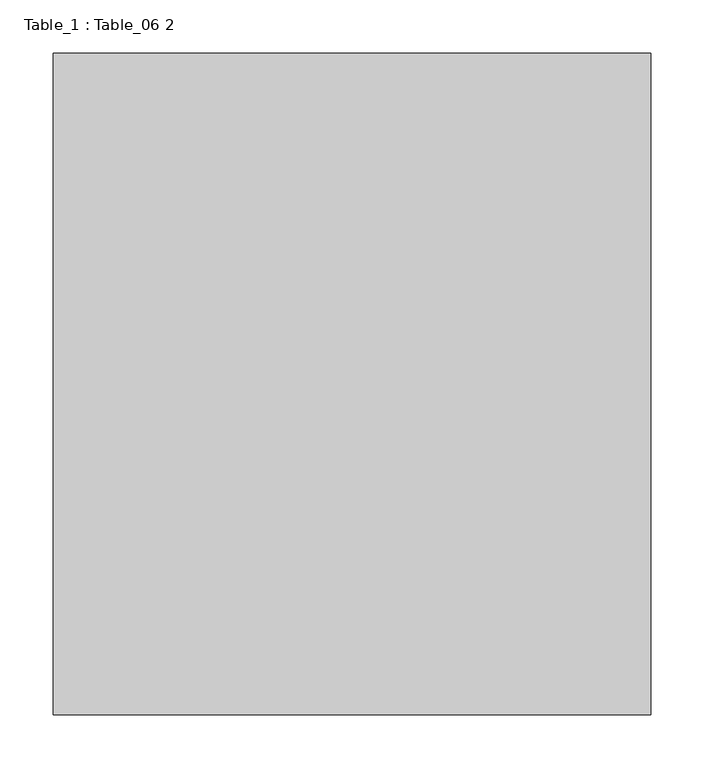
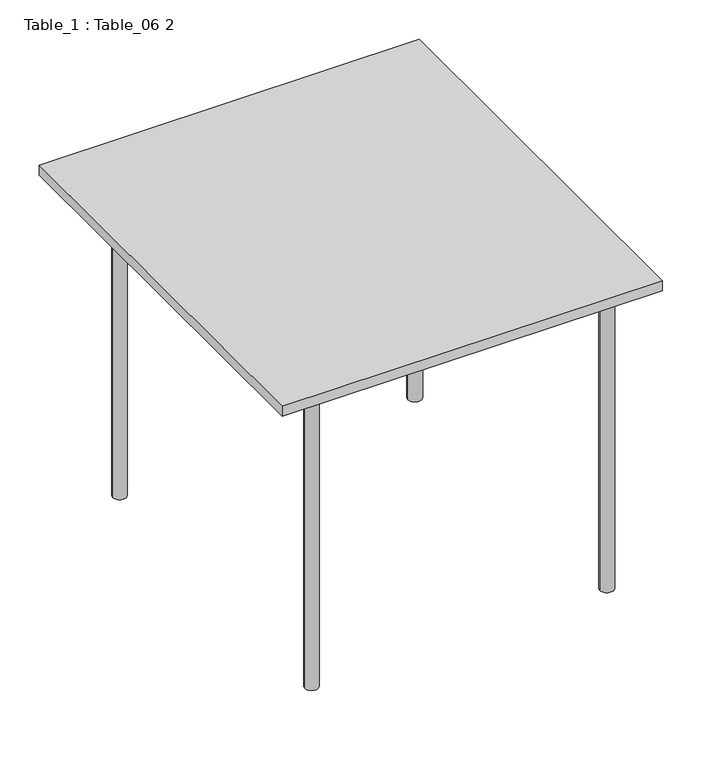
"""IFC4 building model written with IfcOpenShell, lengths in millimetres: furniture geometry, Table_1 : Table_06 2."""

from ifc_helpers import new_model, si_unit, frame, origin, place, context, project, spatial, circle_curve, source, transform, mapped, element, save
from ifc_brep_helpers import plane_surface, cylinder_surface, advanced_brep


def table_1_table_06_2_fc088d78(model_context):
    return source(origin(), model_context, "Body", "AdvancedBrep", [
        advanced_brep(
        [(280.0, 310.0, 501.9899473), (-280.0, 310.0, 501.9899473), (-280.0, -310.0, 501.9899473), (280.0, -310.0, 501.9899473), (280.0, 310.0, 486.4879873), (280.0, -310.0, 486.4879873), (-280.0, -310.0, 486.4879873), (-280.0, 310.0, 486.4879873), (-210.0484829, 243.6767038, 486.4879873), (-190.0484829, 243.6767038, 486.4879873), (-210.0484829, -246.3232962, 486.4879873), (-190.0484829, -246.3232962, 486.4879873), (224.9515171, 243.6767038, 486.4879873), (244.9515171, 243.6767038, 486.4879873), (224.9515171, -246.3232962, 486.4879873), (244.9515171, -246.3232962, 486.4879873), (-210.0484829, 243.6767038, 0.0), (-190.0484829, 243.6767038, 0.0), (-210.0484829, -246.3232962, 0.0), (-190.0484829, -246.3232962, 0.0), (224.9515171, 243.6767038, 0.0), (244.9515171, 243.6767038, 0.0), (224.9515171, -246.3232962, 0.0), (244.9515171, -246.3232962, 0.0)],
        [
            (0, 1),
            (1, 2),
            (2, 3),
            (3, 0),
            (4, 5),
            (5, 6),
            (6, 7),
            (7, 4),
            (8, 9, circle_curve(frame((-200.0484829, 243.6767038, 486.4879873), z_axis=(0.0, 0.0, 1.0), x_axis=(1.0, 0.0, 0.0)), 10.0)),
            (9, 8, circle_curve(frame((-200.0484829, 243.6767038, 486.4879873), z_axis=(0.0, 0.0, 1.0), x_axis=(1.0, 0.0, 0.0)), 10.0)),
            (10, 11, circle_curve(frame((-200.0484829, -246.3232962, 486.4879873), z_axis=(0.0, 0.0, 1.0), x_axis=(1.0, 0.0, 0.0)), 10.0)),
            (11, 10, circle_curve(frame((-200.0484829, -246.3232962, 486.4879873), z_axis=(0.0, 0.0, 1.0), x_axis=(1.0, 0.0, 0.0)), 10.0)),
            (12, 13, circle_curve(frame((234.9515171, 243.6767038, 486.4879873), z_axis=(0.0, 0.0, 1.0), x_axis=(1.0, 0.0, 0.0)), 10.0)),
            (13, 12, circle_curve(frame((234.9515171, 243.6767038, 486.4879873), z_axis=(0.0, 0.0, 1.0), x_axis=(1.0, 0.0, 0.0)), 10.0)),
            (14, 15, circle_curve(frame((234.9515171, -246.3232962, 486.4879873), z_axis=(0.0, 0.0, 1.0), x_axis=(1.0, 0.0, 0.0)), 10.0)),
            (15, 14, circle_curve(frame((234.9515171, -246.3232962, 486.4879873), z_axis=(0.0, 0.0, 1.0), x_axis=(1.0, 0.0, 0.0)), 10.0)),
            (0, 4),
            (7, 1),
            (6, 2),
            (5, 3),
            (16, 17, circle_curve(frame((-200.0484829, 243.6767038, 0.0), z_axis=(0.0, 0.0, -1.0), x_axis=(1.0, 0.0, 0.0)), 10.0)),
            (17, 16, circle_curve(frame((-200.0484829, 243.6767038, 0.0), z_axis=(0.0, 0.0, -1.0), x_axis=(1.0, 0.0, 0.0)), 10.0)),
            (18, 19, circle_curve(frame((-200.0484829, -246.3232962, 0.0), z_axis=(0.0, 0.0, -1.0), x_axis=(1.0, 0.0, 0.0)), 10.0)),
            (19, 18, circle_curve(frame((-200.0484829, -246.3232962, 0.0), z_axis=(0.0, 0.0, -1.0), x_axis=(1.0, 0.0, 0.0)), 10.0)),
            (20, 21, circle_curve(frame((234.9515171, 243.6767038, 0.0), z_axis=(0.0, 0.0, -1.0), x_axis=(1.0, 0.0, 0.0)), 10.0)),
            (21, 20, circle_curve(frame((234.9515171, 243.6767038, 0.0), z_axis=(0.0, 0.0, -1.0), x_axis=(1.0, 0.0, 0.0)), 10.0)),
            (22, 23, circle_curve(frame((234.9515171, -246.3232962, 0.0), z_axis=(0.0, 0.0, -1.0), x_axis=(1.0, 0.0, 0.0)), 10.0)),
            (23, 22, circle_curve(frame((234.9515171, -246.3232962, 0.0), z_axis=(0.0, 0.0, -1.0), x_axis=(1.0, 0.0, 0.0)), 10.0)),
            (17, 9),
            (8, 16),
            (19, 11),
            (10, 18),
            (21, 13),
            (12, 20),
            (23, 15),
            (14, 22),
        ],
        [
            plane_surface(frame((-280.0, 310.0, 501.9899473), z_axis=(0.0, 0.0, 1.0), x_axis=(-1.0, 0.0, 0.0))),
            plane_surface(frame((-280.0, 310.0, 486.4879873), z_axis=(0.0, 0.0, -1.0), x_axis=(1.0, 0.0, 0.0))),
            plane_surface(frame((280.0, 310.0, 501.9899473), z_axis=(0.0, 1.0, 0.0), x_axis=(0.0, 0.0, -1.0))),
            plane_surface(frame((-280.0, 310.0, 501.9899473), z_axis=(-1.0, 0.0, 0.0), x_axis=(0.0, 0.0, -1.0))),
            plane_surface(frame((-280.0, -310.0, 501.9899473), z_axis=(0.0, -1.0, 0.0), x_axis=(0.0, 0.0, -1.0))),
            plane_surface(frame((280.0, -310.0, 501.9899473), z_axis=(1.0, 0.0, 0.0), x_axis=(0.0, 0.0, -1.0))),
            plane_surface(frame((-190.0484829, 243.6767038, 0.0), z_axis=(0.0, 0.0, -1.0), x_axis=(0.0, -1.0, 0.0))),
            cylinder_surface(frame((-200.0484829, 243.6767038, 0.0), z_axis=(0.0, 0.0, 1.0), x_axis=(1.0, 0.0, 0.0)), 10.0),
            cylinder_surface(frame((-200.0484829, -246.3232962, 0.0), z_axis=(0.0, 0.0, 1.0), x_axis=(1.0, 0.0, 0.0)), 10.0),
            cylinder_surface(frame((234.9515171, 243.6767038, 0.0), z_axis=(0.0, 0.0, 1.0), x_axis=(1.0, 0.0, 0.0)), 10.0),
            cylinder_surface(frame((234.9515171, -246.3232962, 0.0), z_axis=(0.0, 0.0, 1.0), x_axis=(1.0, 0.0, 0.0)), 10.0),
        ],
        [
            (0, [[1, 2, 3, 4]]),
            (1, [[5, 6, 7, 8], [9, 10], [11, 12], [13, 14], [15, 16]]),
            (2, [[-1, 17, -8, 18]]),
            (3, [[-2, -18, -7, 19]]),
            (4, [[-3, -19, -6, 20]]),
            (5, [[-4, -20, -5, -17]]),
            (6, [[21, 22]]),
            (6, [[23, 24]]),
            (6, [[25, 26]]),
            (6, [[27, 28]]),
            (7, [[-22, 29, -9, 30]]),
            (7, [[-21, -30, -10, -29]]),
            (8, [[-24, 31, -11, 32]]),
            (8, [[-23, -32, -12, -31]]),
            (9, [[-26, 33, -13, 34]]),
            (9, [[-25, -34, -14, -33]]),
            (10, [[-28, 35, -15, 36]]),
            (10, [[-27, -36, -16, -35]]),
        ],
    ),
    ])


if __name__ == "__main__":
    model = new_model("IFC4")
    model_context = context("Model", 3, world=origin())
    ifc_project = project(units=[si_unit("LENGTHUNIT", "METRE", prefix="MILLI")], contexts=[model_context])
    site = spatial("IfcSite", under=ifc_project)
    building = spatial("IfcBuilding", under=site)
    placement = place(None, origin())
    table_1_table_06_2_shape = table_1_table_06_2_fc088d78(model_context)
    element("IfcFurniture", 1, ObjectType="Table_1 : Table_06 2", at=placement, inside=building, context=model_context, shape_type="MappedRepresentation", body=[
        mapped(table_1_table_06_2_shape, transform((0.0, 0.0, 0.0), x_axis=(1.0, 0.0, 0.0), y_axis=(0.0, 1.0, 0.0), z_axis=(0.0, 0.0, 1.0))),
    ])
    save(model, "model.ifc")
